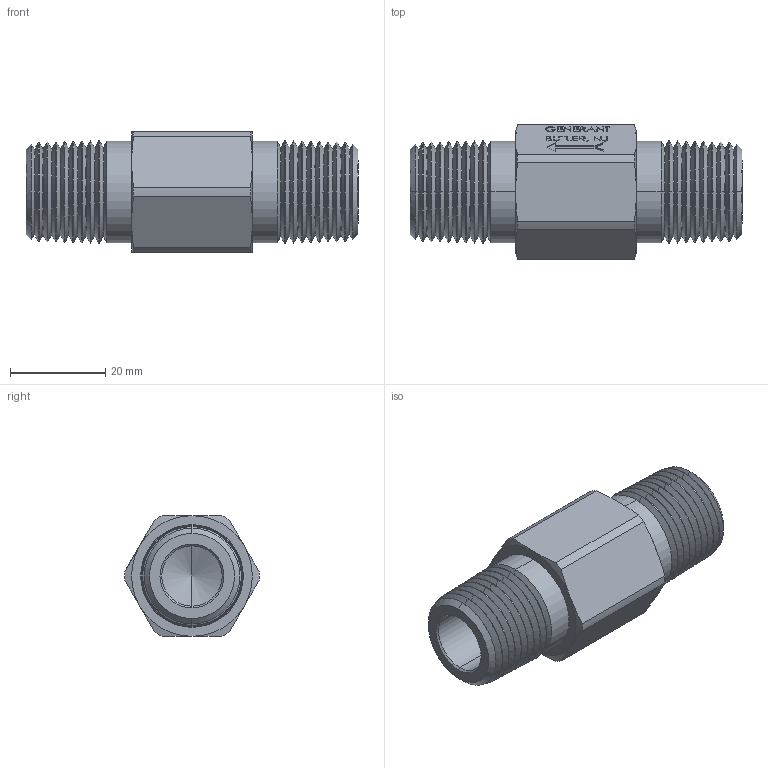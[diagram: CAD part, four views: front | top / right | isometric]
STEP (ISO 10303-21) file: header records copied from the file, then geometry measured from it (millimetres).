
FILE_DESCRIPTION (( 'STEP AP203' ), '1' );
FILE_NAME ('HPCV-8P.STEP', '2019-07-23T16:16:59', ( '' ), ( '' ), 'SwSTEP 2.0', 'SolidWorks 2011', '' );
FILE_SCHEMA (( 'CONFIG_CONTROL_DESIGN' ));
Length unit declared in the file: inch
Products named in the file (2): HPCV-8P; Part1^HPCV-8PB-T_CM
Assembly tree (1 placements, depth 2):
  HPCV-8P
    Part1^HPCV-8PB-T_CM
Bounding box: 69.85 x 28.32 x 25.4 mm (x, y, z)
Volume: 21584.5 mm3; surface area: 9742.6 mm2
Topology: 1 solids, 1 shells, 412 faces, 1043 edges, 656 vertices
Faces by surface type: plane 193, cone 165, bspline 40, cylinder 14
Entity records: 14697 total; most frequent: CARTESIAN_POINT 4751, ORIENTED_EDGE 2078, DIRECTION 1929, EDGE_CURVE 1039, LINE 693, VECTOR 693, VERTEX_POINT 656, AXIS2_PLACEMENT_3D 618
